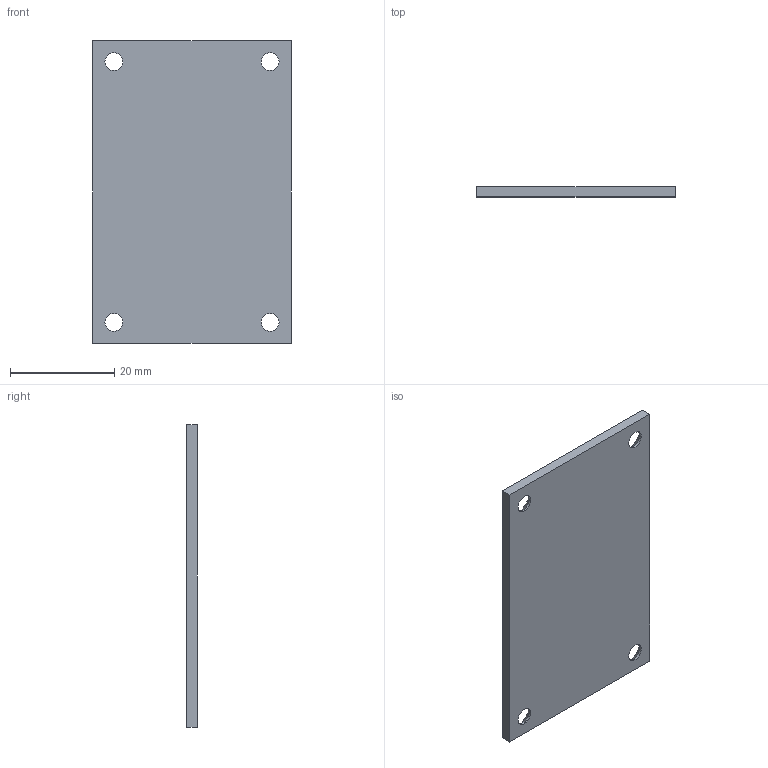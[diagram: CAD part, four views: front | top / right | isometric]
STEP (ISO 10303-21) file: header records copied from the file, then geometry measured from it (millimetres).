
FILE_DESCRIPTION(/* description */ (''),/* implementation_level */ '2;1');
FILE_NAME(/* name */ '',/* time_stamp */ '2026-05-15T16:35:53+08:00',/* author */ ('32769'),/* organization */ (''),/* preprocessor_version */ 'ST-DEVELOPER v20',/* originating_system */ 'Autodesk Inventor 2025',/* authorisation */ '');
FILE_SCHEMA (('AUTOMOTIVE_DESIGN { 1 0 10303 214 3 1 1 }'));
Length unit declared in the file: millimetre
Products named in the file (1): 4K方形冷屏下表面封闭窗片郝吉晨2
0241126
Bounding box: 38 x 2 x 58 mm (x, y, z)
Volume: 4263.5 mm3; surface area: 4778.1 mm2
Topology: 1 solids, 1 shells, 14 faces, 32 edges, 20 vertices
Faces by surface type: plane 6, cone 4, cylinder 4
Full cylindrical faces by diameter (mm): 3.4 x4
Entity records: 455 total; most frequent: DIRECTION 74, CARTESIAN_POINT 67, ORIENTED_EDGE 64, EDGE_CURVE 32, AXIS2_PLACEMENT_3D 27, EDGE_LOOP 22, LINE 20, VECTOR 20
